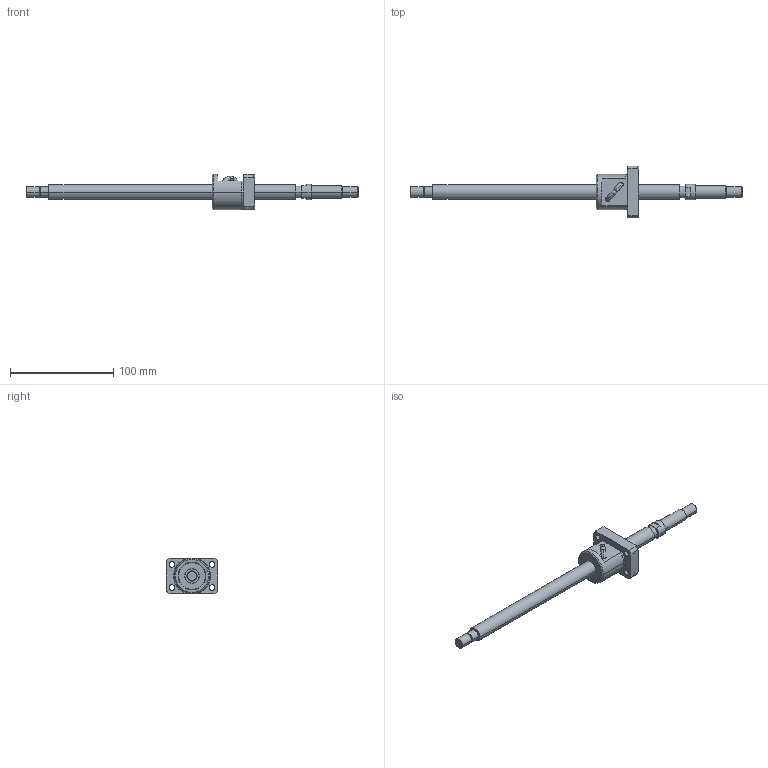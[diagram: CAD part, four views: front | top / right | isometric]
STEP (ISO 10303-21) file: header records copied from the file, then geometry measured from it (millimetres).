
FILE_DESCRIPTION (( 'STEP AP214' ), '1' );
FILE_NAME ('BS1405A-3D.STEP', '2014-03-07T20:19:55', ( '' ), ( '' ), 'SwSTEP 2.0', 'SolidWorks 2012', '' );
FILE_SCHEMA (( 'AUTOMOTIVE_DESIGN' ));
Length unit declared in the file: millimetre
Products named in the file (3): BS1405Aナット; BS1405AŽ²; BS1405A-3D
Assembly tree (2 placements, depth 2):
  BS1405A-3D
    BS1405AŽ²
    BS1405Aナット
Bounding box: 321 x 50 x 34 mm (x, y, z)
Volume: 78063.7 mm3; surface area: 25929.2 mm2
Topology: 3 solids, 3 shells, 148 faces, 373 edges, 242 vertices
Faces by surface type: cylinder 66, plane 42, cone 34, torus 4, bspline 2
Entity records: 5770 total; most frequent: CARTESIAN_POINT 1961, DIRECTION 776, ORIENTED_EDGE 742, EDGE_CURVE 371, AXIS2_PLACEMENT_3D 323, VERTEX_POINT 242, EDGE_LOOP 179, CIRCLE 172
